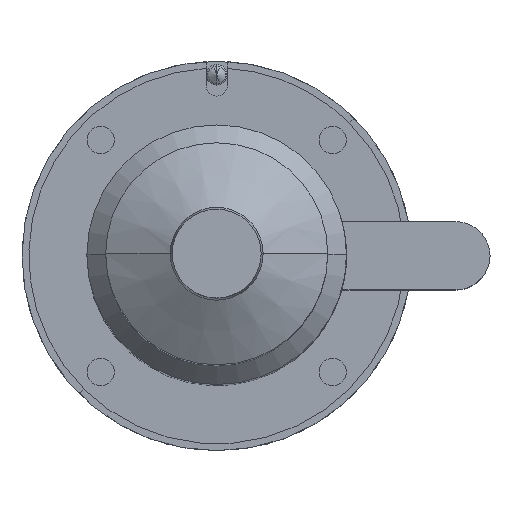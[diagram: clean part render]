
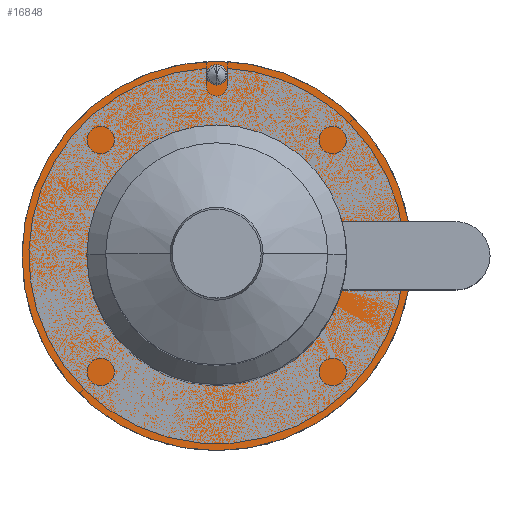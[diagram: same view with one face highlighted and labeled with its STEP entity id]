
A CAD part, top view. The second image highlights one B-rep face of the part: STEP entity #16848.
In plain terms, the highlighted planar face has unit normal (0, 0, 1).
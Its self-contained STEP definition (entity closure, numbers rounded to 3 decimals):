
#145 = EDGE_LOOP ( 'NONE', ( #10184, #10181, #10126, #10131, #10192, #10109, #10309 ) ) ;
#416 = EDGE_LOOP ( 'NONE', ( #9980, #10065 ) ) ;
#2075 = CARTESIAN_POINT ( 'NONE',  ( -38., 0., 20. ) ) ;
#6576 = VERTEX_POINT ( 'NONE', #30950 ) ;
#6609 = AXIS2_PLACEMENT_3D ( 'NONE', #18287, #18289, #18290 ) ;
#6626 = AXIS2_PLACEMENT_3D ( 'NONE', #24644, #24645, #24647 ) ;
#6756 = VERTEX_POINT ( 'NONE', #31140 ) ;
#6779 = VERTEX_POINT ( 'NONE', #31631 ) ;
#6826 = VERTEX_POINT ( 'NONE', #31601 ) ;
#6849 = VERTEX_POINT ( 'NONE', #31055 ) ;
#6882 = VERTEX_POINT ( 'NONE', #30843 ) ;
#6893 = VERTEX_POINT ( 'NONE', #30893 ) ;
#6904 = VERTEX_POINT ( 'NONE', #30946 ) ;
#7197 = CIRCLE ( 'NONE', #25802, 3. ) ;
#7222 = CIRCLE ( 'NONE', #25833, 38. ) ;
#7247 = CIRCLE ( 'NONE', #25892, 57. ) ;
#7343 = CIRCLE ( 'NONE', #25869, 38. ) ;
#7355 = CIRCLE ( 'NONE', #25831, 57. ) ;
#7379 = LINE ( 'NONE', #22464, #7381 ) ;
#7381 = VECTOR ( 'NONE', #22467, 1000. ) ;
#7421 = LINE ( 'NONE', #23123, #7423 ) ;
#7423 = VECTOR ( 'NONE', #23126, 1000. ) ;
#7548 = CIRCLE ( 'NONE', #6626, 3. ) ;
#7610 = CIRCLE ( 'NONE', #6609, 57. ) ;
#9980 = ORIENTED_EDGE ( 'NONE', *, *, #28042, .F. ) ;
#10065 = ORIENTED_EDGE ( 'NONE', *, *, #28375, .F. ) ;
#10109 = ORIENTED_EDGE ( 'NONE', *, *, #28066, .T. ) ;
#10126 = ORIENTED_EDGE ( 'NONE', *, *, #28431, .T. ) ;
#10131 = ORIENTED_EDGE ( 'NONE', *, *, #28191, .T. ) ;
#10181 = ORIENTED_EDGE ( 'NONE', *, *, #28088, .T. ) ;
#10184 = ORIENTED_EDGE ( 'NONE', *, *, #28257, .F. ) ;
#10192 = ORIENTED_EDGE ( 'NONE', *, *, #28218, .F. ) ;
#10309 = ORIENTED_EDGE ( 'NONE', *, *, #28179, .T. ) ;
#12646 = FACE_OUTER_BOUND ( 'NONE', #145, .T. ) ;
#12668 = FACE_BOUND ( 'NONE', #416, .T. ) ;
#16848 = ADVANCED_FACE ( 'NONE', ( #12646, #12668 ), #34500, .T. ) ;
#18287 = CARTESIAN_POINT ( 'NONE',  ( 0., 0., 20. ) ) ;
#18289 = DIRECTION ( 'NONE',  ( 0., 0., 1. ) ) ;
#18290 = DIRECTION ( 'NONE',  ( 0., 1., 0. ) ) ;
#20289 = VERTEX_POINT ( 'NONE', #2075 ) ;
#21722 = CARTESIAN_POINT ( 'NONE',  ( 0., 0., 20. ) ) ;
#21725 = DIRECTION ( 'NONE',  ( 0., 0., -1. ) ) ;
#21728 = DIRECTION ( 'NONE',  ( 0., 1., 0. ) ) ;
#22123 = CARTESIAN_POINT ( 'NONE',  ( 0., 0., 20. ) ) ;
#22125 = DIRECTION ( 'NONE',  ( 0., 0., 1. ) ) ;
#22128 = DIRECTION ( 'NONE',  ( 0., 1., 0. ) ) ;
#22392 = CARTESIAN_POINT ( 'NONE',  ( 0., 53., 20. ) ) ;
#22394 = DIRECTION ( 'NONE',  ( 0., 0., 1. ) ) ;
#22397 = DIRECTION ( 'NONE',  ( 0., 1., 0. ) ) ;
#22464 = CARTESIAN_POINT ( 'NONE',  ( 0., -10., 20. ) ) ;
#22467 = DIRECTION ( 'NONE',  ( 1., 0., 0. ) ) ;
#22814 = CARTESIAN_POINT ( 'NONE',  ( 0., 0., 20. ) ) ;
#22816 = DIRECTION ( 'NONE',  ( 0., 0., -1. ) ) ;
#22817 = DIRECTION ( 'NONE',  ( 0., 1., 0. ) ) ;
#23034 = CARTESIAN_POINT ( 'NONE',  ( 0., 0., 20. ) ) ;
#23036 = DIRECTION ( 'NONE',  ( 0., 0., 1. ) ) ;
#23038 = DIRECTION ( 'NONE',  ( 0., 1., 0. ) ) ;
#23123 = CARTESIAN_POINT ( 'NONE',  ( 0., 10., 20. ) ) ;
#23126 = DIRECTION ( 'NONE',  ( -1., 0., 0. ) ) ;
#24644 = CARTESIAN_POINT ( 'NONE',  ( 0., 53., 20. ) ) ;
#24645 = DIRECTION ( 'NONE',  ( 0., 0., 1. ) ) ;
#24647 = DIRECTION ( 'NONE',  ( 0., 1., 0. ) ) ;
#24928 = AXIS2_PLACEMENT_3D ( 'NONE', #34501, #34502, #34503 ) ;
#25802 = AXIS2_PLACEMENT_3D ( 'NONE', #22392, #22394, #22397 ) ;
#25831 = AXIS2_PLACEMENT_3D ( 'NONE', #22123, #22125, #22128 ) ;
#25833 = AXIS2_PLACEMENT_3D ( 'NONE', #22814, #22816, #22817 ) ;
#25869 = AXIS2_PLACEMENT_3D ( 'NONE', #21722, #21725, #21728 ) ;
#25892 = AXIS2_PLACEMENT_3D ( 'NONE', #23034, #23036, #23038 ) ;
#28042 = EDGE_CURVE ( 'NONE', #6904, #6882, #7197, .T. ) ;
#28066 = EDGE_CURVE ( 'NONE', #6893, #20289, #7222, .T. ) ;
#28088 = EDGE_CURVE ( 'NONE', #6576, #6779, #7247, .T. ) ;
#28179 = EDGE_CURVE ( 'NONE', #20289, #6826, #7343, .T. ) ;
#28191 = EDGE_CURVE ( 'NONE', #6849, #6756, #7355, .T. ) ;
#28218 = EDGE_CURVE ( 'NONE', #6893, #6756, #7379, .T. ) ;
#28257 = EDGE_CURVE ( 'NONE', #6576, #6826, #7421, .T. ) ;
#28375 = EDGE_CURVE ( 'NONE', #6882, #6904, #7548, .T. ) ;
#28431 = EDGE_CURVE ( 'NONE', #6779, #6849, #7610, .T. ) ;
#30843 = CARTESIAN_POINT ( 'NONE',  ( 0., 50., 20. ) ) ;
#30893 = CARTESIAN_POINT ( 'NONE',  ( 36.661, -10., 20. ) ) ;
#30946 = CARTESIAN_POINT ( 'NONE',  ( 0., 56., 20. ) ) ;
#30950 = CARTESIAN_POINT ( 'NONE',  ( 56.116, 10., 20. ) ) ;
#31055 = CARTESIAN_POINT ( 'NONE',  ( 0., -57., 20. ) ) ;
#31140 = CARTESIAN_POINT ( 'NONE',  ( 56.116, -10., 20. ) ) ;
#31601 = CARTESIAN_POINT ( 'NONE',  ( 36.661, 10., 20. ) ) ;
#31631 = CARTESIAN_POINT ( 'NONE',  ( 0., 57., 20. ) ) ;
#34500 = PLANE ( 'NONE',  #24928 ) ;
#34501 = CARTESIAN_POINT ( 'NONE',  ( 0., 32.5, 20. ) ) ;
#34502 = DIRECTION ( 'NONE',  ( 0., 0., 1. ) ) ;
#34503 = DIRECTION ( 'NONE',  ( 0., 1., 0. ) ) ;
